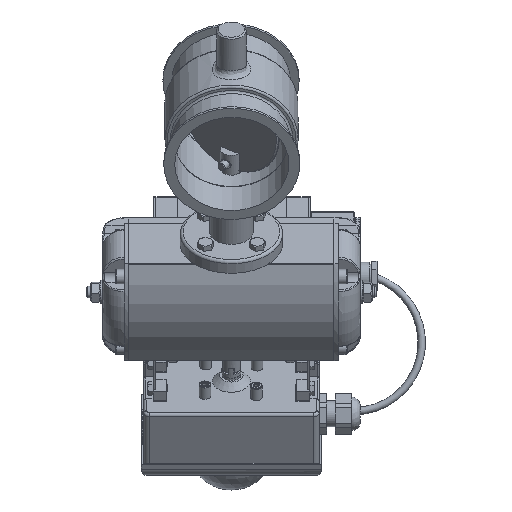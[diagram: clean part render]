
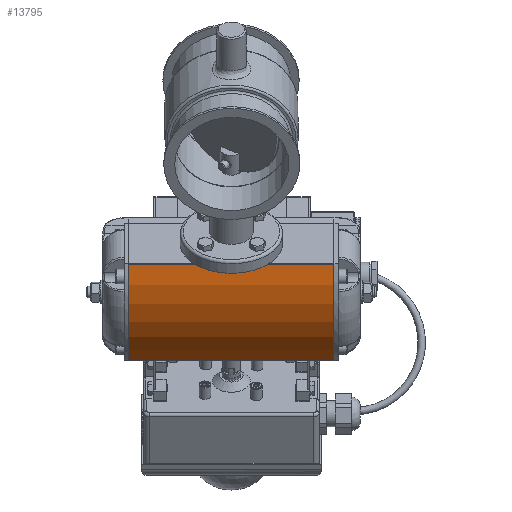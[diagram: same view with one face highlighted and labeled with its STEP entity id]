
A CAD part, isometric view. The second image highlights one B-rep face of the part: STEP entity #13795.
In plain terms, the highlighted cylindrical face has radius 80 mm (diameter 160 mm), a partial arc.
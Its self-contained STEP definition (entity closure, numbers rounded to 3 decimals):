
#13498=CARTESIAN_POINT('',(-69.782,80.5,140.0));
#13499=VERTEX_POINT('',#13498);
#13507=CARTESIAN_POINT('',(-69.782,0.5,140.0));
#13508=VERTEX_POINT('',#13507);
#13509=CARTESIAN_POINT('',(-0.5,40.5,140.0));
#13510=DIRECTION('',(0.0,0.0,-1.));
#13511=DIRECTION('',(-0.862,0.506,0.0));
#13512=AXIS2_PLACEMENT_3D('',#13509,#13510,#13511);
#13513=CIRCLE('',#13512,80.0);
#13514=EDGE_CURVE('',#13508,#13499,#13513,.T.);
#13615=CARTESIAN_POINT('',(-69.782,0.5,0.0));
#13616=VERTEX_POINT('',#13615);
#13617=CARTESIAN_POINT('',(-69.782,0.5,140.0));
#13618=DIRECTION('',(0.0,0.0,-1.0));
#13619=VECTOR('',#13618,140.0);
#13620=LINE('',#13617,#13619);
#13621=EDGE_CURVE('',#13508,#13616,#13620,.T.);
#13685=CARTESIAN_POINT('',(-69.782,80.5,0.0));
#13686=VERTEX_POINT('',#13685);
#13694=CARTESIAN_POINT('',(-69.782,80.5,0.0));
#13695=DIRECTION('',(0.0,0.0,1.0));
#13696=VECTOR('',#13695,140.0);
#13697=LINE('',#13694,#13696);
#13698=EDGE_CURVE('',#13686,#13499,#13697,.T.);
#13778=CARTESIAN_POINT('',(-0.5,40.5,0.0));
#13779=DIRECTION('',(0.0,0.0,1.0));
#13780=DIRECTION('',(-0.862,0.506,0.0));
#13781=AXIS2_PLACEMENT_3D('',#13778,#13779,#13780);
#13782=CYLINDRICAL_SURFACE('',#13781,80.0);
#13783=ORIENTED_EDGE('',*,*,#13621,.F.);
#13784=ORIENTED_EDGE('',*,*,#13514,.T.);
#13785=ORIENTED_EDGE('',*,*,#13698,.F.);
#13786=CARTESIAN_POINT('',(-0.5,40.5,0.0));
#13787=DIRECTION('',(0.0,0.0,1.));
#13788=DIRECTION('',(-0.862,0.506,0.0));
#13789=AXIS2_PLACEMENT_3D('',#13786,#13787,#13788);
#13790=CIRCLE('',#13789,80.0);
#13791=EDGE_CURVE('',#13686,#13616,#13790,.T.);
#13792=ORIENTED_EDGE('',*,*,#13791,.T.);
#13793=EDGE_LOOP('',(#13783,#13784,#13785,#13792));
#13794=FACE_OUTER_BOUND('',#13793,.T.);
#13795=ADVANCED_FACE('',(#13794),#13782,.T.);
